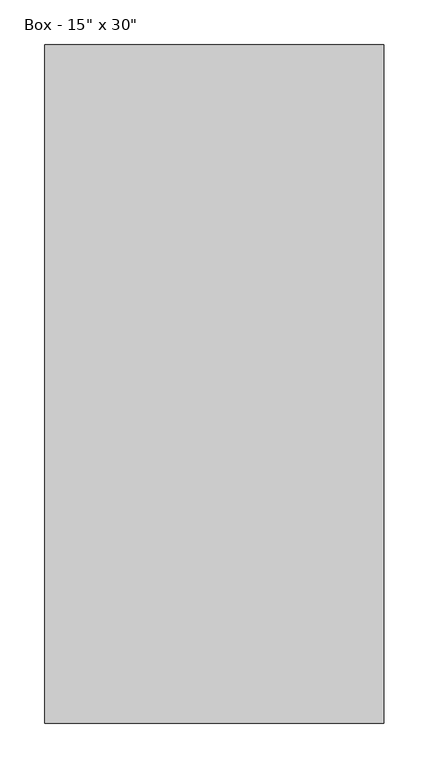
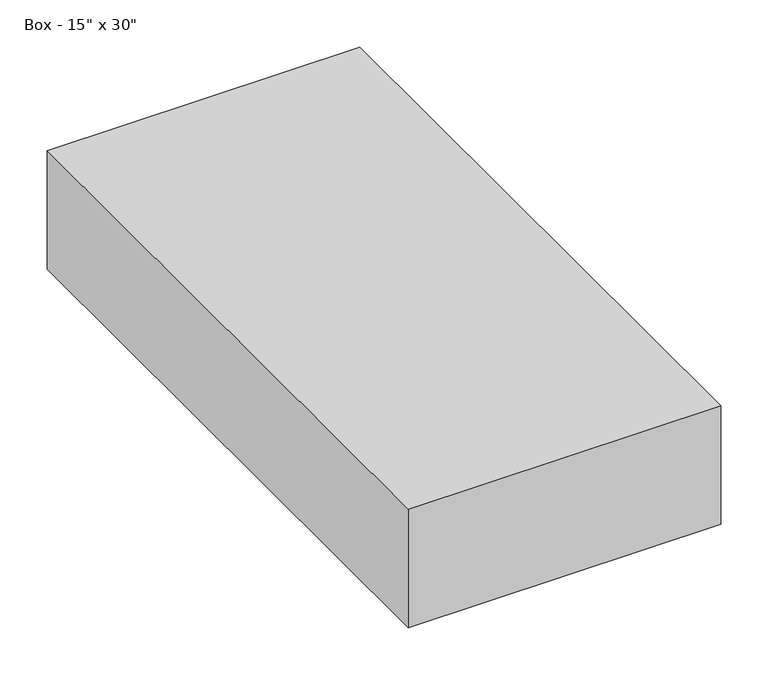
"""IFC4 building model written with IfcOpenShell, lengths in millimetres: furniture geometry."""

from ifc_helpers import new_model, si_unit, frame, origin, place, context, project, spatial, polyline, outline, extrude, source, transform, mapped, element, save


def furniture_b63acceb(model_context):
    return source(origin(), model_context, "Body", "SweptSolid", [
        extrude(outline(polyline([(190.5, 381.0), (190.5, -381.0), (-190.5, -381.0), (-190.5, 381.0), (190.5, 381.0)])), frame((0.0, 0.0, 254.0), z_axis=(0.0, 0.0, 1.0), x_axis=(1.0, 0.0, 0.0)), (0.0, 0.0, 1.0), 152.4),
    ])


if __name__ == "__main__":
    model = new_model("IFC4")
    model_context = context("Model", 3, world=origin())
    ifc_project = project(units=[si_unit("LENGTHUNIT", "METRE", prefix="MILLI")], contexts=[model_context])
    site = spatial("IfcSite", under=ifc_project)
    building = spatial("IfcBuilding", under=site)
    placement = place(None, origin())
    furniture_shape = furniture_b63acceb(model_context)
    element("IfcFurniture", 1, ObjectType="Stylex - Ambi Modular - Box : Box - 15\" x 30\"", at=placement, inside=building, context=model_context, shape_type="MappedRepresentation", body=[
        mapped(furniture_shape, transform((0.0, 0.0, 0.0), x_axis=(1.0, 0.0, 0.0), y_axis=(0.0, 1.0, 0.0), z_axis=(0.0, 0.0, 1.0))),
    ])
    save(model, "model.ifc")
